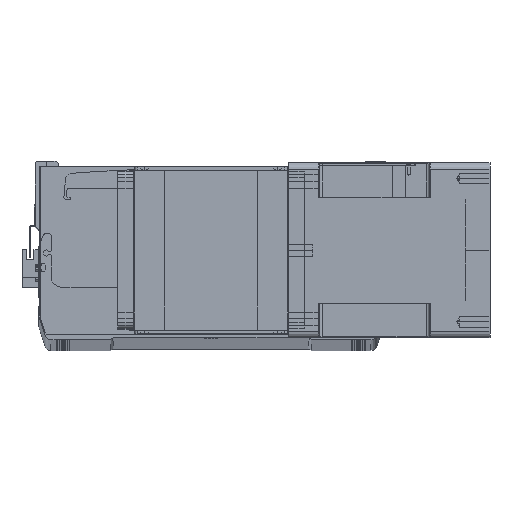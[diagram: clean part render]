
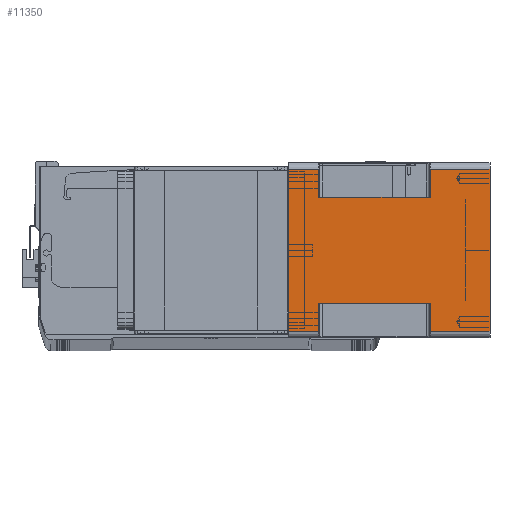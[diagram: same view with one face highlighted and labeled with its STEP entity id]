
A CAD part, top view. The second image highlights one B-rep face of the part: STEP entity #11350.
In plain terms, the highlighted planar face has unit normal (0, 0, 1) as drawn and (1, 0, 0) by its records, which use the part's own axes.
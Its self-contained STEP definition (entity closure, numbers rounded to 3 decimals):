
#683 = VECTOR ( 'NONE', #34086, 1000. ) ;
#1018 = DIRECTION ( 'NONE',  ( 0., 0., 1. ) ) ;
#1592 = DIRECTION ( 'NONE',  ( 0., 0., 1. ) ) ;
#2443 = ORIENTED_EDGE ( 'NONE', *, *, #14842, .T. ) ;
#2451 = LINE ( 'NONE', #39142, #16462 ) ;
#2884 = VECTOR ( 'NONE', #1592, 1000. ) ;
#2946 = VERTEX_POINT ( 'NONE', #19987 ) ;
#3379 = EDGE_CURVE ( 'NONE', #37444, #14411, #33695, .T. ) ;
#3441 = CARTESIAN_POINT ( 'NONE',  ( 71., -66., -24.5 ) ) ;
#3681 = CARTESIAN_POINT ( 'NONE',  ( 71., 43., -115.5 ) ) ;
#3998 = ORIENTED_EDGE ( 'NONE', *, *, #23362, .T. ) ;
#4144 = DIRECTION ( 'NONE',  ( 0., 1., 0. ) ) ;
#4403 = LINE ( 'NONE', #36477, #6351 ) ;
#4627 = ORIENTED_EDGE ( 'NONE', *, *, #32634, .T. ) ;
#4964 = VECTOR ( 'NONE', #35221, 1000. ) ;
#5343 = VERTEX_POINT ( 'NONE', #29227 ) ;
#5381 = CARTESIAN_POINT ( 'NONE',  ( 71., -43., -164. ) ) ;
#6351 = VECTOR ( 'NONE', #39594, 1000. ) ;
#6509 = VERTEX_POINT ( 'NONE', #33683 ) ;
#7253 = ORIENTED_EDGE ( 'NONE', *, *, #19940, .F. ) ;
#7666 = CARTESIAN_POINT ( 'NONE',  ( 71., -66., -164. ) ) ;
#8051 = EDGE_CURVE ( 'NONE', #14411, #37683, #20908, .T. ) ;
#8822 = DIRECTION ( 'NONE',  ( 0., 0., 1. ) ) ;
#9118 = EDGE_CURVE ( 'NONE', #33002, #11441, #19312, .T. ) ;
#9540 = ORIENTED_EDGE ( 'NONE', *, *, #8051, .F. ) ;
#9941 = CARTESIAN_POINT ( 'NONE',  ( 71., -66., -164. ) ) ;
#10354 = DIRECTION ( 'NONE',  ( 0., -1., 0. ) ) ;
#11350 = ADVANCED_FACE ( 'NONE', ( #34799 ), #28960, .T. ) ;
#11441 = VERTEX_POINT ( 'NONE', #14245 ) ;
#12034 = VERTEX_POINT ( 'NONE', #27154 ) ;
#12535 = CARTESIAN_POINT ( 'NONE',  ( 71., -66., -115.5 ) ) ;
#13026 = LINE ( 'NONE', #33089, #32391 ) ;
#14245 = CARTESIAN_POINT ( 'NONE',  ( 71., 66., -115.5 ) ) ;
#14411 = VERTEX_POINT ( 'NONE', #26653 ) ;
#14842 = EDGE_CURVE ( 'NONE', #37444, #6509, #27624, .T. ) ;
#14895 = CARTESIAN_POINT ( 'NONE',  ( 71., -66., -164. ) ) ;
#15090 = EDGE_CURVE ( 'NONE', #12034, #17045, #2451, .T. ) ;
#15138 = EDGE_CURVE ( 'NONE', #30001, #33002, #13026, .T. ) ;
#15713 = LINE ( 'NONE', #5381, #26858 ) ;
#16462 = VECTOR ( 'NONE', #17426, 1000. ) ;
#16597 = ORIENTED_EDGE ( 'NONE', *, *, #15138, .T. ) ;
#16826 = VECTOR ( 'NONE', #10354, 1000. ) ;
#17045 = VERTEX_POINT ( 'NONE', #26531 ) ;
#17426 = DIRECTION ( 'NONE',  ( 0., 0., -1. ) ) ;
#17679 = AXIS2_PLACEMENT_3D ( 'NONE', #7666, #23196, #4144 ) ;
#18343 = DIRECTION ( 'NONE',  ( 0., 0., 1. ) ) ;
#18667 = VECTOR ( 'NONE', #34711, 1000. ) ;
#18747 = CARTESIAN_POINT ( 'NONE',  ( 71., -66., -24.5 ) ) ;
#19149 = EDGE_CURVE ( 'NONE', #11441, #17045, #34601, .T. ) ;
#19312 = LINE ( 'NONE', #35201, #2884 ) ;
#19419 = VECTOR ( 'NONE', #37777, 1000. ) ;
#19594 = CARTESIAN_POINT ( 'NONE',  ( 71., -43., -24.5 ) ) ;
#19744 = ORIENTED_EDGE ( 'NONE', *, *, #19149, .T. ) ;
#19940 = EDGE_CURVE ( 'NONE', #2946, #6509, #15713, .T. ) ;
#19987 = CARTESIAN_POINT ( 'NONE',  ( 71., -43., -115.5 ) ) ;
#20034 = LINE ( 'NONE', #9941, #25846 ) ;
#20908 = LINE ( 'NONE', #26189, #4964 ) ;
#21074 = DIRECTION ( 'NONE',  ( 0., 1., 0. ) ) ;
#21192 = ORIENTED_EDGE ( 'NONE', *, *, #3379, .F. ) ;
#22395 = VERTEX_POINT ( 'NONE', #12535 ) ;
#22413 = ORIENTED_EDGE ( 'NONE', *, *, #9118, .T. ) ;
#22728 = EDGE_CURVE ( 'NONE', #2946, #22395, #39035, .T. ) ;
#23176 = CARTESIAN_POINT ( 'NONE',  ( 71., -66., -164. ) ) ;
#23196 = DIRECTION ( 'NONE',  ( 1., 0., 0. ) ) ;
#23362 = EDGE_CURVE ( 'NONE', #12034, #5343, #33088, .T. ) ;
#25846 = VECTOR ( 'NONE', #1018, 1000. ) ;
#26189 = CARTESIAN_POINT ( 'NONE',  ( 71., -66., 0. ) ) ;
#26531 = CARTESIAN_POINT ( 'NONE',  ( 71., 43., -115.5 ) ) ;
#26560 = ORIENTED_EDGE ( 'NONE', *, *, #31092, .F. ) ;
#26653 = CARTESIAN_POINT ( 'NONE',  ( 71., -66., 0. ) ) ;
#26858 = VECTOR ( 'NONE', #18343, 1000. ) ;
#27154 = CARTESIAN_POINT ( 'NONE',  ( 71., 43., -24.5 ) ) ;
#27624 = LINE ( 'NONE', #19594, #19419 ) ;
#28883 = CARTESIAN_POINT ( 'NONE',  ( 71., 66., -164. ) ) ;
#28956 = CARTESIAN_POINT ( 'NONE',  ( 71., 66., 0. ) ) ;
#28960 = PLANE ( 'NONE',  #17679 ) ;
#29227 = CARTESIAN_POINT ( 'NONE',  ( 71., 66., -24.5 ) ) ;
#30001 = VERTEX_POINT ( 'NONE', #23176 ) ;
#31092 = EDGE_CURVE ( 'NONE', #30001, #22395, #20034, .T. ) ;
#31161 = ORIENTED_EDGE ( 'NONE', *, *, #22728, .T. ) ;
#31567 = EDGE_LOOP ( 'NONE', ( #7253, #31161, #26560, #16597, #22413, #19744, #39991, #3998, #4627, #9540, #21192, #2443 ) ) ;
#32391 = VECTOR ( 'NONE', #21074, 1000. ) ;
#32514 = CARTESIAN_POINT ( 'NONE',  ( 71., -66., -115.5 ) ) ;
#32634 = EDGE_CURVE ( 'NONE', #5343, #37683, #4403, .T. ) ;
#32724 = VECTOR ( 'NONE', #8822, 1000. ) ;
#33002 = VERTEX_POINT ( 'NONE', #28883 ) ;
#33088 = LINE ( 'NONE', #3441, #683 ) ;
#33089 = CARTESIAN_POINT ( 'NONE',  ( 71., -66., -164. ) ) ;
#33683 = CARTESIAN_POINT ( 'NONE',  ( 71., -43., -24.5 ) ) ;
#33695 = LINE ( 'NONE', #14895, #32724 ) ;
#34086 = DIRECTION ( 'NONE',  ( 0., 1., 0. ) ) ;
#34601 = LINE ( 'NONE', #3681, #18667 ) ;
#34711 = DIRECTION ( 'NONE',  ( 0., -1., 0. ) ) ;
#34799 = FACE_OUTER_BOUND ( 'NONE', #31567, .T. ) ;
#35201 = CARTESIAN_POINT ( 'NONE',  ( 71., 66., -164. ) ) ;
#35221 = DIRECTION ( 'NONE',  ( 0., 1., 0. ) ) ;
#36477 = CARTESIAN_POINT ( 'NONE',  ( 71., 66., -164. ) ) ;
#37444 = VERTEX_POINT ( 'NONE', #18747 ) ;
#37683 = VERTEX_POINT ( 'NONE', #28956 ) ;
#37777 = DIRECTION ( 'NONE',  ( 0., 1., 0. ) ) ;
#39035 = LINE ( 'NONE', #32514, #16826 ) ;
#39142 = CARTESIAN_POINT ( 'NONE',  ( 71., 43., -164. ) ) ;
#39594 = DIRECTION ( 'NONE',  ( 0., 0., 1. ) ) ;
#39991 = ORIENTED_EDGE ( 'NONE', *, *, #15090, .F. ) ;
